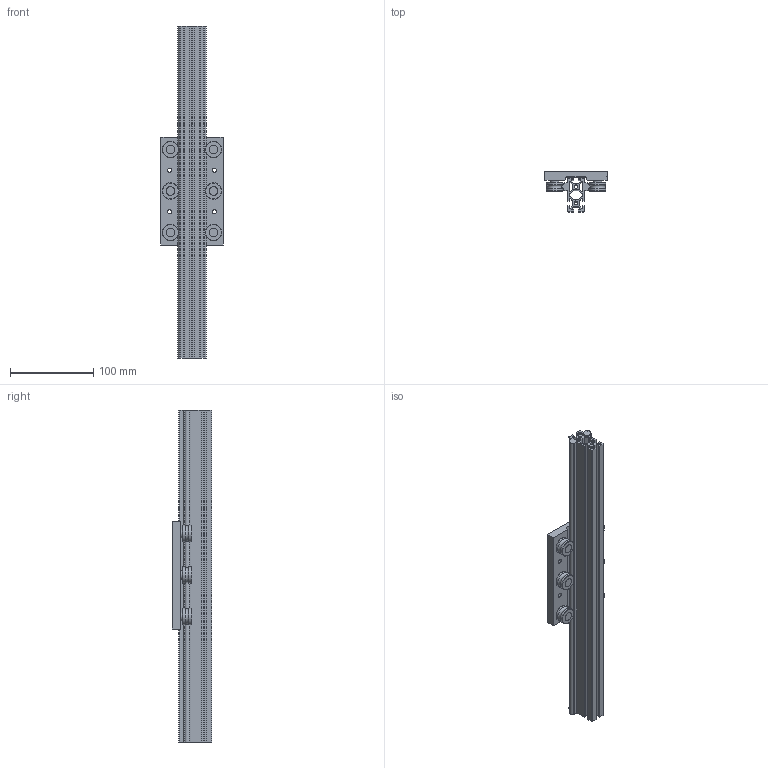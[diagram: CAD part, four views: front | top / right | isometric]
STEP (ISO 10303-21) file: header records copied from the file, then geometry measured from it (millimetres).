
FILE_DESCRIPTION (( 'STEP AP214' ), '1' );
FILE_NAME ('LSAP2040L.STEP', '2021-12-15T06:57:25', ( '' ), ( '' ), 'SwSTEP 2.0', 'SolidWorks 2019', '' );
FILE_SCHEMA (( 'AUTOMOTIVE_DESIGN' ));
Length unit declared in the file: millimetre
Products named in the file (3): LSAP2040L; LSAP2040Lレール; LSAP2040L僉儍儕僢僕
Assembly tree (2 placements, depth 2):
  LSAP2040L
    LSAP2040Lレール
    LSAP2040L僉儍儕僢僕
Bounding box: 75 x 48 x 400 mm (x, y, z)
Volume: 277139.3 mm3; surface area: 177755.4 mm2
Topology: 8 solids, 8 shells, 367 faces, 867 edges, 546 vertices
Faces by surface type: plane 197, cone 78, cylinder 74, torus 18
Full cylindrical faces by diameter (mm): 4.2 x2, 5 x7, 6 x12, 10.6 x12, 15 x6, 20 x12
Entity records: 13262 total; most frequent: CARTESIAN_POINT 2370, DIRECTION 1624, ORIENTED_EDGE 1572, EDGE_CURVE 786, AXIS2_PLACEMENT_3D 610, VERTEX_POINT 540, EDGE_LOOP 508, FACE_OUTER_BOUND 436
